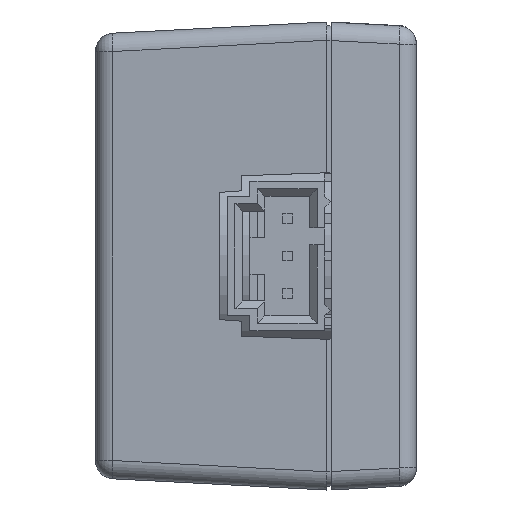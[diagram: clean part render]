
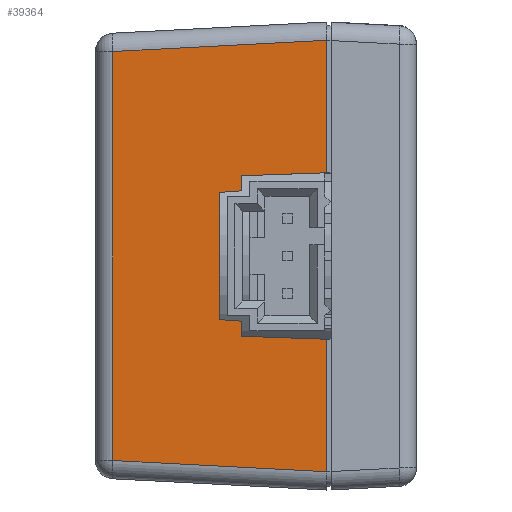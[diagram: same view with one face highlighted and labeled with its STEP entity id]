
A CAD part, left-side view. The second image highlights one B-rep face of the part: STEP entity #39364.
In plain terms, the highlighted planar face has unit normal (-0.999, 0.052, 0) as drawn and (0, -0.999, -0.052) by its records, which use the part's own axes.
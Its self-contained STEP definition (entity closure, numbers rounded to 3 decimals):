
#17953=VERTEX_POINT('',#58846);
#17954=VERTEX_POINT('',#58848);
#17963=VERTEX_POINT('',#58884);
#17964=VERTEX_POINT('',#58885);
#18136=VERTEX_POINT('',#59321);
#18158=VERTEX_POINT('',#59412);
#18159=VERTEX_POINT('',#59414);
#18160=VERTEX_POINT('',#59418);
#18161=VERTEX_POINT('',#59420);
#18162=VERTEX_POINT('',#59426);
#18163=VERTEX_POINT('',#59429);
#18164=VERTEX_POINT('',#59431);
#20624=VECTOR('',#46491,1.);
#20834=VECTOR('',#46782,1.);
#20882=VECTOR('',#46855,1.);
#20885=VECTOR('',#46859,1.);
#20887=VECTOR('',#46862,1.);
#20888=VECTOR('',#46864,1.);
#20889=VECTOR('',#46865,1.);
#20890=VECTOR('',#46866,1.);
#20891=VECTOR('',#46867,1.);
#20892=VECTOR('',#46868,1.);
#23361=LINE('',#58847,#20624);
#23571=LINE('',#59322,#20834);
#23619=LINE('',#59413,#20882);
#23622=LINE('',#59419,#20885);
#23624=LINE('',#59423,#20887);
#23625=LINE('',#59425,#20888);
#23626=LINE('',#59427,#20889);
#23627=LINE('',#59428,#20890);
#23628=LINE('',#59430,#20891);
#23629=LINE('',#59432,#20892);
#27066=EDGE_CURVE('',#17954,#17953,#23361,.T.);
#27080=EDGE_CURVE('',#17964,#17963,#23361,.T.);
#27323=EDGE_CURVE('',#17963,#18136,#23571,.T.);
#27372=EDGE_CURVE('',#18159,#18158,#23619,.T.);
#27375=EDGE_CURVE('',#18161,#18160,#23622,.T.);
#27377=EDGE_CURVE('',#18158,#18161,#23624,.T.);
#27378=EDGE_CURVE('',#18160,#18162,#23625,.T.);
#27379=EDGE_CURVE('',#18162,#17954,#23626,.T.);
#27380=EDGE_CURVE('',#18163,#17953,#23627,.T.);
#27381=EDGE_CURVE('',#18164,#18163,#23628,.T.);
#27382=EDGE_CURVE('',#17964,#18164,#23629,.T.);
#27383=EDGE_CURVE('',#18136,#18159,#23625,.T.);
#34803=ORIENTED_EDGE('',*,*,#27372,.T.);
#34804=ORIENTED_EDGE('',*,*,#27377,.T.);
#34805=ORIENTED_EDGE('',*,*,#27375,.T.);
#34806=ORIENTED_EDGE('',*,*,#27378,.T.);
#34807=ORIENTED_EDGE('',*,*,#27379,.T.);
#34808=ORIENTED_EDGE('',*,*,#27066,.T.);
#34809=ORIENTED_EDGE('',*,*,#27380,.F.);
#34810=ORIENTED_EDGE('',*,*,#27381,.F.);
#34811=ORIENTED_EDGE('',*,*,#27382,.F.);
#34812=ORIENTED_EDGE('',*,*,#27080,.T.);
#34813=ORIENTED_EDGE('',*,*,#27323,.T.);
#34814=ORIENTED_EDGE('',*,*,#27383,.T.);
#36430=EDGE_LOOP('',(#34803,#34804,#34805,#34806,#34807,#34808,#34809,#34810,
#34811,#34812,#34813,#34814));
#37953=FACE_BOUND('',#36430,.T.);
#39364=ADVANCED_FACE('',(#37953),#60453,.T.);
#41260=AXIS2_PLACEMENT_3D('',#59424,#46863,$);
#46491=DIRECTION('',(-1.,0.,0.));
#46782=DIRECTION('',(-0.035,0.052,-0.998));
#46855=DIRECTION('',(-0.07,0.052,-0.996));
#46859=DIRECTION('',(-0.07,-0.052,0.996));
#46862=DIRECTION('',(-1.,0.,0.));
#46863=DIRECTION('',(0.,-0.999,-0.052));
#46864=DIRECTION('',(-1.,0.,0.));
#46865=DIRECTION('',(-0.035,-0.052,0.998));
#46866=DIRECTION('',(-0.052,-0.052,0.997));
#46867=DIRECTION('',(-1.,0.,0.));
#46868=DIRECTION('',(-0.052,0.052,-0.997));
#58846=CARTESIAN_POINT('',(-1.464,-3.76,1.565));
#58847=CARTESIAN_POINT('',(-0.733,-3.76,1.565));
#58848=CARTESIAN_POINT('',(-0.565,-3.76,1.565));
#58884=CARTESIAN_POINT('',(0.565,-3.76,1.565));
#58885=CARTESIAN_POINT('',(1.464,-3.76,1.565));
#59321=CARTESIAN_POINT('',(0.545,-3.73,0.99));
#59322=CARTESIAN_POINT('',(0.559,-3.751,1.39));
#59412=CARTESIAN_POINT('',(0.432,-3.722,0.838));
#59413=CARTESIAN_POINT('',(0.465,-3.747,1.307));
#59414=CARTESIAN_POINT('',(0.442,-3.73,0.99));
#59418=CARTESIAN_POINT('',(-0.442,-3.73,0.99));
#59419=CARTESIAN_POINT('',(-0.465,-3.747,1.307));
#59420=CARTESIAN_POINT('',(-0.432,-3.722,0.838));
#59423=CARTESIAN_POINT('',(0.,-3.722,0.838));
#59424=CARTESIAN_POINT('',(0.,-3.778,1.909));
#59425=CARTESIAN_POINT('',(0.,-3.73,0.99));
#59426=CARTESIAN_POINT('',(-0.545,-3.73,0.99));
#59427=CARTESIAN_POINT('',(-0.559,-3.751,1.39));
#59428=CARTESIAN_POINT('',(-1.475,-3.771,1.775));
#59429=CARTESIAN_POINT('',(-1.388,-3.684,0.115));
#59430=CARTESIAN_POINT('',(0.,-3.684,0.115));
#59431=CARTESIAN_POINT('',(1.388,-3.684,0.115));
#59432=CARTESIAN_POINT('',(1.475,-3.771,1.775));
#60453=PLANE('',#41260);
